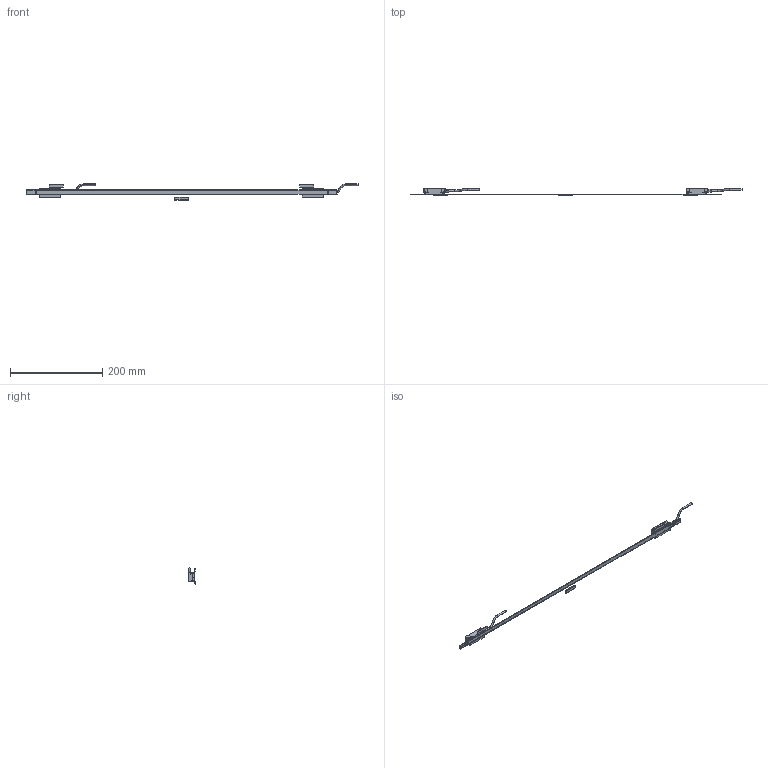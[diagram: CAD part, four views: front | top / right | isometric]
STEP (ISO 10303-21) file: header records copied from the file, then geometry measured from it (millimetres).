
FILE_DESCRIPTION(('Creo Elements/Direct Modeling STEP Export'),'2;1');
FILE_NAME('ITA-570.stp','2025-01-22T 9:00:01',(''),(''),'Creo Elements/Direct Modeling STEP processor for AP214 (Solid Model)','Creo Elements/Direct Modeling 20.4A 18-Oct-2021 (C) Parametric Technology GmbH','');
FILE_SCHEMA(('AUTOMOTIVE_DESIGN { 1 0 10303 214 1 1 1 1 }'));
Length unit declared in the file: millimetre
Products named in the file (10): END_TAPE_2; READING_HEAD_1; TAPE_570; READING_HEAD_2; MAGNET_L1; MAGNET_L2; MAGNET_I0; END_TAPE_1; ITA_570; ITA-570
Assembly tree (9 placements, depth 3):
  ITA-570
    ITA_570
      END_TAPE_1
      MAGNET_I0
      MAGNET_L2
      MAGNET_L1
      READING_HEAD_2
      TAPE_570
      READING_HEAD_1
      END_TAPE_2
Bounding box: 721.13 x 15.04 x 34.83 mm (x, y, z)
Volume: 27397.3 mm3; surface area: 26127.8 mm2
Topology: 8 solids, 8 shells, 1250 faces, 3430 edges, 2227 vertices
Faces by surface type: plane 908, cylinder 234, bspline 42, cone 32, torus 22, sphere 12
Entity records: 49179 total; most frequent: CARTESIAN_POINT 9939, ORIENTED_EDGE 6820, DIRECTION 6123, EDGE_CURVE 3410, VECTOR 2785, LINE 2785, VERTEX_POINT 2227, AXIS2_PLACEMENT_3D 1669
